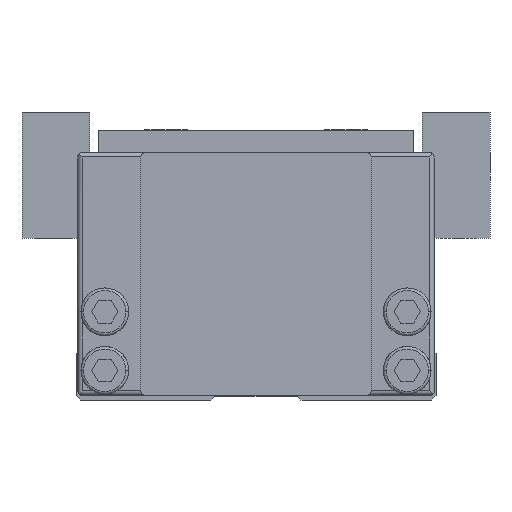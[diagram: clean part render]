
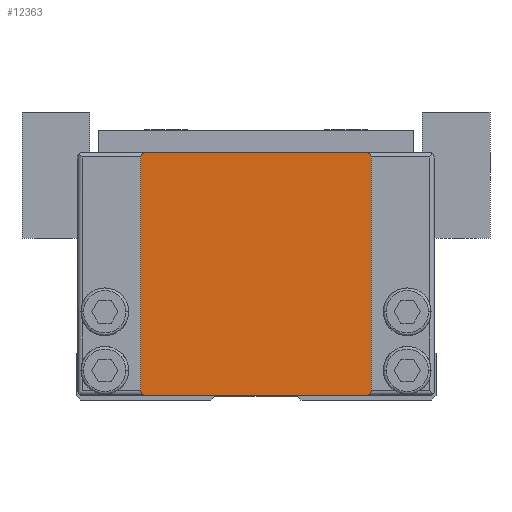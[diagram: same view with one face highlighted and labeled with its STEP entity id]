
A CAD part, front view. The second image highlights one B-rep face of the part: STEP entity #12363.
In plain terms, the highlighted planar face has unit normal (0, -1, 0).
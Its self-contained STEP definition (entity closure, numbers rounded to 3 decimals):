
#8041=EDGE_CURVE('',#9097,#8967,#22169,.T.);
#8967=VERTEX_POINT('',#23189);
#9097=VERTEX_POINT('',#23333);
#12363=ADVANCED_FACE('',(#26945),#26946,.T.);
#12777=EDGE_CURVE('',#13519,#9097,#27416,.T.);
#12875=EDGE_CURVE('',#13147,#14837,#27520,.T.);
#13147=VERTEX_POINT('',#27808);
#13519=VERTEX_POINT('',#28220);
#14837=VERTEX_POINT('',#29681);
#15101=VERTEX_POINT('',#29987);
#16325=EDGE_CURVE('',#16777,#13147,#31344,.T.);
#16777=VERTEX_POINT('',#31840);
#17435=EDGE_CURVE('',#14837,#15101,#32581,.T.);
#18791=EDGE_CURVE('',#15101,#20027,#34069,.T.);
#20027=VERTEX_POINT('',#35429);
#20569=EDGE_CURVE('',#20027,#13519,#36020,.T.);
#20857=EDGE_CURVE('',#8967,#16777,#36339,.T.);
#22169=CIRCLE('',#38143,0.5);
#23189=CARTESIAN_POINT('',(12.3,0.0,0.5));
#23333=CARTESIAN_POINT('',(12.8,0.0,1.0));
#26945=FACE_OUTER_BOUND('',#45323,.T.);
#26946=PLANE('',#45324);
#27416=LINE('',#45978,#45979);
#27520=LINE('',#46124,#46125);
#27808=CARTESIAN_POINT('',(-12.8,0.0,1.0));
#28220=CARTESIAN_POINT('',(12.8,0.0,27.0));
#29681=CARTESIAN_POINT('',(-12.8,0.0,27.0));
#29987=CARTESIAN_POINT('',(-12.3,0.0,27.5));
#31344=CIRCLE('',#51647,0.5);
#31840=CARTESIAN_POINT('',(-12.3,0.0,0.5));
#32581=CIRCLE('',#53578,0.5);
#34069=LINE('',#55966,#55967);
#35429=CARTESIAN_POINT('',(12.3,0.0,27.5));
#36020=CIRCLE('',#58842,0.5);
#36339=LINE('',#59331,#59332);
#38143=AXIS2_PLACEMENT_3D('',#60843,#60844,#60845);
#45323=EDGE_LOOP('',(#66319,#66320,#66321,#66322,#66323,#66324,#66325,#66326));
#45324=AXIS2_PLACEMENT_3D('',#66327,#66328,#66329);
#45978=CARTESIAN_POINT('',(12.8,0.0,1.0));
#45979=VECTOR('',#66890,1.0);
#46124=CARTESIAN_POINT('',(-12.8,0.0,27.0));
#46125=VECTOR('',#66976,1.0);
#51647=AXIS2_PLACEMENT_3D('',#71296,#71297,#71298);
#53578=AXIS2_PLACEMENT_3D('',#72818,#72819,#72820);
#55966=CARTESIAN_POINT('',(12.3,0.0,27.5));
#55967=VECTOR('',#74442,1.0);
#58842=AXIS2_PLACEMENT_3D('',#76569,#76570,#76571);
#59331=CARTESIAN_POINT('',(-12.3,0.0,0.5));
#59332=VECTOR('',#76998,1.0);
#60843=CARTESIAN_POINT('',(12.3,0.0,1.));
#60844=DIRECTION('',(-0.0,1.0,0.0));
#60845=DIRECTION('',(0.0,0.0,-1.0));
#66319=ORIENTED_EDGE('',*,*,#12875,.F.);
#66320=ORIENTED_EDGE('',*,*,#16325,.F.);
#66321=ORIENTED_EDGE('',*,*,#20857,.F.);
#66322=ORIENTED_EDGE('',*,*,#8041,.F.);
#66323=ORIENTED_EDGE('',*,*,#12777,.F.);
#66324=ORIENTED_EDGE('',*,*,#20569,.F.);
#66325=ORIENTED_EDGE('',*,*,#18791,.F.);
#66326=ORIENTED_EDGE('',*,*,#17435,.F.);
#66327=CARTESIAN_POINT('',(0.,0.0,14.0));
#66328=DIRECTION('',(0.0,-1.0,0.0));
#66329=DIRECTION('',(1.0,0.0,0.0));
#66890=DIRECTION('',(-0.0,0.0,-1.0));
#66976=DIRECTION('',(0.0,0.0,1.0));
#71296=CARTESIAN_POINT('',(-12.3,0.0,1.));
#71297=DIRECTION('',(0.0,1.0,-0.0));
#71298=DIRECTION('',(-1.0,0.0,0.));
#72818=CARTESIAN_POINT('',(-12.3,0.0,27.0));
#72819=DIRECTION('',(0.0,1.0,-0.0));
#72820=DIRECTION('',(0.,0.0,1.0));
#74442=DIRECTION('',(1.0,0.0,0.0));
#76569=CARTESIAN_POINT('',(12.3,0.0,27.0));
#76570=DIRECTION('',(-0.0,1.0,0.0));
#76571=DIRECTION('',(1.0,0.0,0.));
#76998=DIRECTION('',(-1.0,0.0,-0.0));
